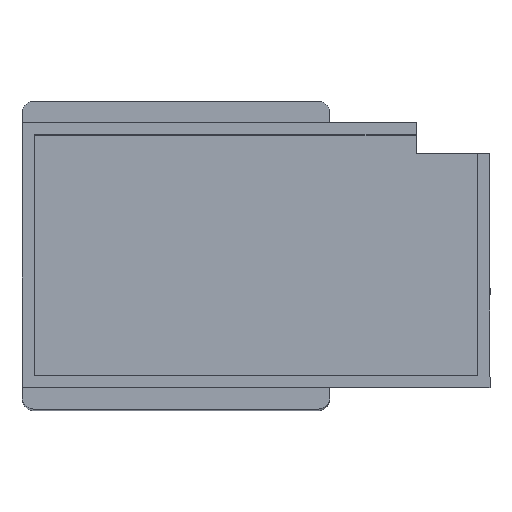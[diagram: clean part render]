
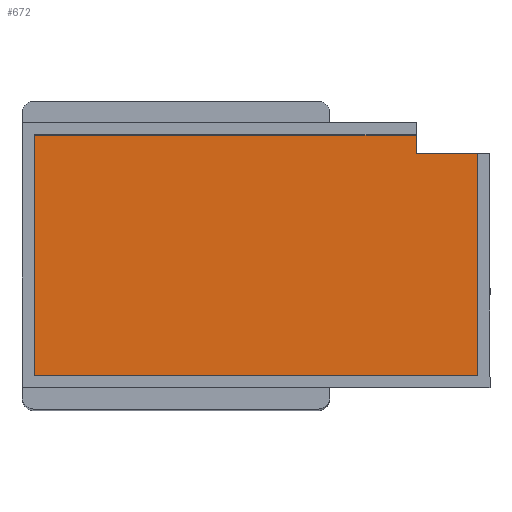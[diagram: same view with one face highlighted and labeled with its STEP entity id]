
A CAD part, top view. The second image highlights one B-rep face of the part: STEP entity #672.
In plain terms, the highlighted planar face has unit normal (0, 0, 1).
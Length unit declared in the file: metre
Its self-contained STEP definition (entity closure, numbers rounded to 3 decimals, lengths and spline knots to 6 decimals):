
#110=ORIENTED_EDGE('',*,*,#271,.F.);
#111=ORIENTED_EDGE('',*,*,#267,.T.);
#112=ORIENTED_EDGE('',*,*,#268,.T.);
#113=ORIENTED_EDGE('',*,*,#270,.F.);
#114=ORIENTED_EDGE('',*,*,#250,.F.);
#115=ORIENTED_EDGE('',*,*,#272,.T.);
#250=EDGE_CURVE('',#336,#337,#403,.T.);
#267=EDGE_CURVE('',#347,#348,#420,.T.);
#268=EDGE_CURVE('',#348,#349,#421,.T.);
#270=EDGE_CURVE('',#337,#349,#423,.T.);
#271=EDGE_CURVE('',#347,#350,#424,.T.);
#272=EDGE_CURVE('',#336,#350,#425,.T.);
#336=VERTEX_POINT('',#1036);
#337=VERTEX_POINT('',#1038);
#347=VERTEX_POINT('',#1067);
#348=VERTEX_POINT('',#1069);
#349=VERTEX_POINT('',#1073);
#350=VERTEX_POINT('',#1079);
#403=LINE('',#1037,#468);
#420=LINE('',#1070,#485);
#421=LINE('',#1072,#486);
#423=LINE('',#1076,#488);
#424=LINE('',#1078,#489);
#425=LINE('',#1080,#490);
#468=VECTOR('',#819,1.);
#485=VECTOR('',#844,1.);
#486=VECTOR('',#847,1.);
#488=VECTOR('',#851,1.);
#489=VECTOR('',#854,1.);
#490=VECTOR('',#855,1.);
#521=EDGE_LOOP('',(#110,#111,#112,#113,#114,#115));
#582=FACE_BOUND('',#521,.T.);
#641=PLANE('',#728);
#672=ADVANCED_FACE('',(#582),#641,.T.);
#728=AXIS2_PLACEMENT_3D('',#1077,#852,#853);
#819=DIRECTION('',(0.,-1.,0.));
#844=DIRECTION('',(-1.,0.,0.));
#847=DIRECTION('',(0.,-1.,0.));
#851=DIRECTION('',(-1.,0.,0.));
#852=DIRECTION('',(0.,0.,1.));
#853=DIRECTION('',(1.,0.,0.));
#854=DIRECTION('',(0.,-1.,0.));
#855=DIRECTION('',(-1.,0.,0.));
#1036=CARTESIAN_POINT('',(0.011291,-0.201335,0.002));
#1037=CARTESIAN_POINT('',(0.011291,-0.217835,0.002));
#1038=CARTESIAN_POINT('',(0.011291,-0.237335,0.002));
#1067=CARTESIAN_POINT('',(0.001291,-0.198335,0.002));
#1069=CARTESIAN_POINT('',(-0.060709,-0.198335,0.002));
#1070=CARTESIAN_POINT('',(-0.024709,-0.198335,0.002));
#1072=CARTESIAN_POINT('',(-0.060709,-0.217835,0.002));
#1073=CARTESIAN_POINT('',(-0.060709,-0.237335,0.002));
#1076=CARTESIAN_POINT('',(-0.024709,-0.237335,0.002));
#1077=CARTESIAN_POINT('',(-0.024709,-0.217835,0.002));
#1078=CARTESIAN_POINT('',(0.001291,-0.217835,0.002));
#1079=CARTESIAN_POINT('',(0.001291,-0.201335,0.002));
#1080=CARTESIAN_POINT('',(-0.024709,-0.201335,0.002));
